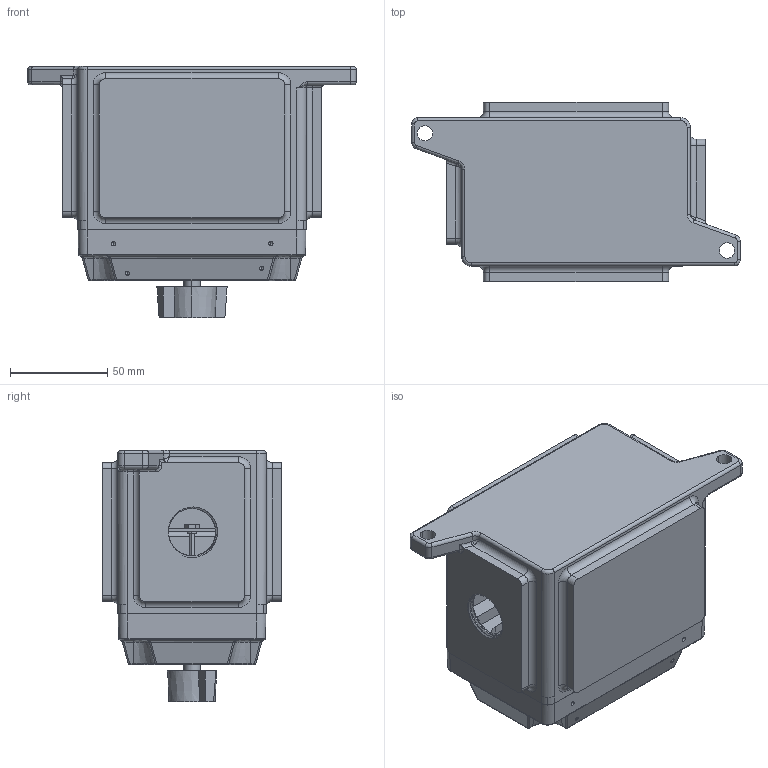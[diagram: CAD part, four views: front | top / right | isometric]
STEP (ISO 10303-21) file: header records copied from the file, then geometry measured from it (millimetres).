
FILE_DESCRIPTION (( 'STEP AP203' ), '1' );
FILE_NAME ('EXP-RT-DPST-MIN.60-0.75IN-FT.STEP', '2021-08-17T16:22:42', ( '' ), ( '' ), 'SwSTEP 2.0', 'SolidWorks 2020', '' );
FILE_SCHEMA (( 'CONFIG_CONTROL_DESIGN' ));
Length unit declared in the file: inch
Products named in the file (7): MSHXNUT 0.112-40-S-N_MSHXNUT 0.112-40-S-N; Killark GO133; EXP-RT-DPST-MIN.60-0.75IN-FT; KILLARK SWB-45; X-10; INTERMATIC FD460MW; CR-BHMS 0.112-40x1.125x1.125-N_CR-BHMS 0.112-40x1.75x1.75-N
Assembly tree (8 placements, depth 2):
  EXP-RT-DPST-MIN.60-0.75IN-FT
    KILLARK SWB-45
    X-10
    Killark GO133
    INTERMATIC FD460MW
    CR-BHMS 0.112-40x1.125x1.125-N_CR-BHMS 0.112-40x1.75x1.75-N  x2
    MSHXNUT 0.112-40-S-N_MSHXNUT 0.112-40-S-N  x2
Bounding box: 169.24 x 92.08 x 129.35 mm (x, y, z)
Volume: 270362.8 mm3; surface area: 165129.2 mm2
Topology: 10 solids, 11 shells, 928 faces, 2358 edges, 1453 vertices
Faces by surface type: plane 383, cylinder 263, bspline 181, cone 63, torus 34, sphere 4
Entity records: 40707 total; most frequent: CARTESIAN_POINT 19897, ORIENTED_EDGE 4434, DIRECTION 3737, EDGE_CURVE 2217, VERTEX_POINT 1397, AXIS2_PLACEMENT_3D 1262, VECTOR 1213, LINE 1213
